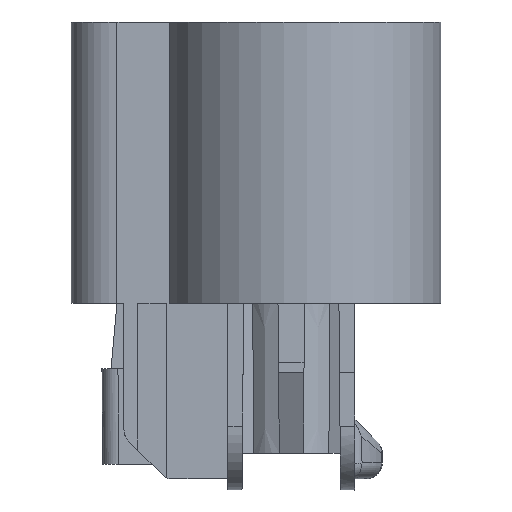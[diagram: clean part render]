
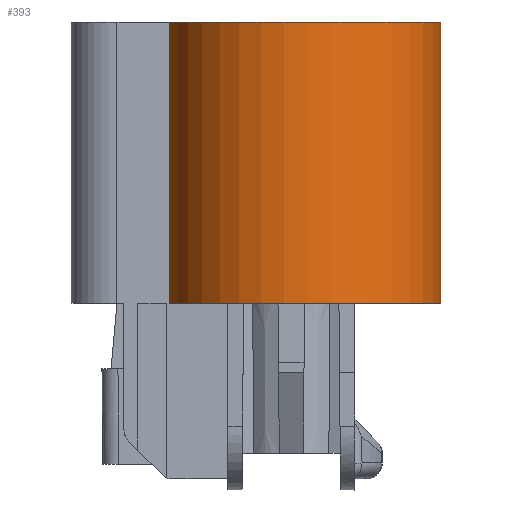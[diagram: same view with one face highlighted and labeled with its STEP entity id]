
A CAD part, left-side view. The second image highlights one B-rep face of the part: STEP entity #393.
In plain terms, the highlighted cylindrical face has radius 8.6 mm (diameter 17.2 mm), a partial arc.
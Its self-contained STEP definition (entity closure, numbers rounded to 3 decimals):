
#68=CYLINDRICAL_SURFACE('',#4072,8.6);
#87=CIRCLE('',#4055,8.6);
#100=CIRCLE('',#4071,8.6);
#158=FACE_OUTER_BOUND('',#808,.T.);
#393=ADVANCED_FACE('',(#158),#68,.T.);
#808=EDGE_LOOP('',(#1146,#1147,#1148,#1149));
#1146=ORIENTED_EDGE('',*,*,#2660,.F.);
#1147=ORIENTED_EDGE('',*,*,#2661,.F.);
#1148=ORIENTED_EDGE('',*,*,#2600,.T.);
#1149=ORIENTED_EDGE('',*,*,#2662,.F.);
#2224=VERTEX_POINT('',#5500);
#2225=VERTEX_POINT('',#5502);
#2282=VERTEX_POINT('',#5622);
#2283=VERTEX_POINT('',#5623);
#2600=EDGE_CURVE('',#2225,#2224,#87,.T.);
#2660=EDGE_CURVE('',#2282,#2283,#100,.T.);
#2661=EDGE_CURVE('',#2225,#2282,#3216,.T.);
#2662=EDGE_CURVE('',#2283,#2224,#3217,.T.);
#3216=LINE('',#5624,#3678);
#3217=LINE('',#5625,#3679);
#3678=VECTOR('',#4488,1.);
#3679=VECTOR('',#4489,1.);
#4055=AXIS2_PLACEMENT_3D('',#5501,#4407,#4408);
#4071=AXIS2_PLACEMENT_3D('',#5621,#4486,#4487);
#4072=AXIS2_PLACEMENT_3D('',#5626,#4490,#4491);
#4407=DIRECTION('',(0.,0.,1.));
#4408=DIRECTION('',(-1.,0.,0.));
#4486=DIRECTION('',(0.,0.,1.));
#4487=DIRECTION('',(-1.,0.,0.));
#4488=DIRECTION('',(0.,0.,1.));
#4489=DIRECTION('',(0.,0.,-1.));
#4490=DIRECTION('',(0.,0.,-1.));
#4491=DIRECTION('',(-1.,0.,0.));
#5500=CARTESIAN_POINT('',(-7.729,-8.6,-10.9));
#5501=CARTESIAN_POINT('',(-7.729,0.,-10.9));
#5502=CARTESIAN_POINT('',(-9.702,8.371,-10.9));
#5621=CARTESIAN_POINT('',(-7.729,0.,6.7));
#5622=CARTESIAN_POINT('',(-9.702,8.371,6.7));
#5623=CARTESIAN_POINT('',(-7.729,-8.6,6.7));
#5624=CARTESIAN_POINT('',(-9.702,8.371,6.3));
#5625=CARTESIAN_POINT('',(-7.729,-8.6,6.7));
#5626=CARTESIAN_POINT('',(-7.729,0.,6.3));
